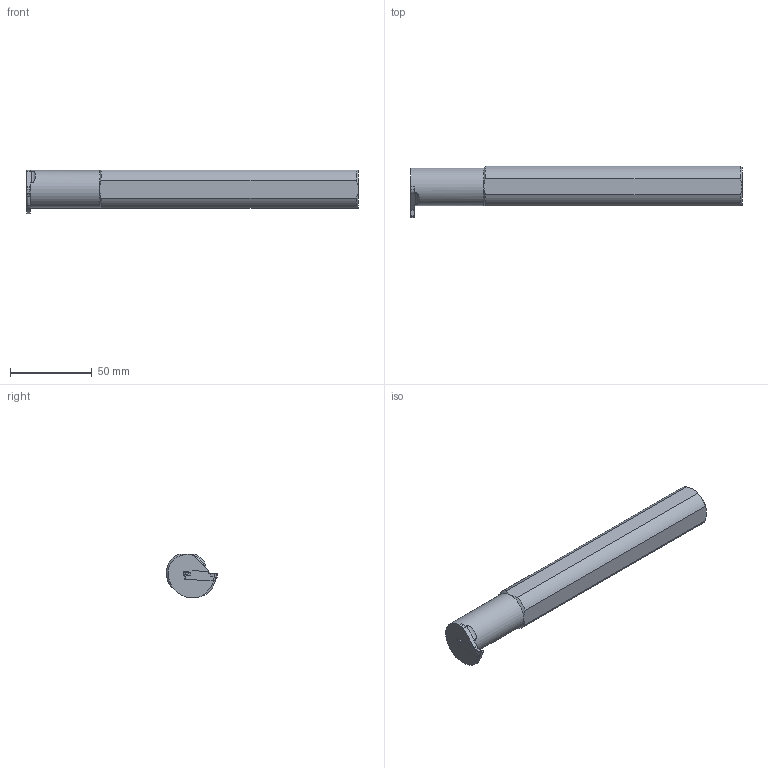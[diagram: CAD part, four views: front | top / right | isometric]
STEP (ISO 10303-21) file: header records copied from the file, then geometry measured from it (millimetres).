
FILE_DESCRIPTION(/* description */ (''),/* implementation_level */ '2;1');
FILE_NAME(/* name */ 'MGIVR20-16-3-HAAS_20200714.stp',/* time_stamp */ '2020-11-18T17:19:51+09:00',/* author */ (''),/* organization */ (''),/* preprocessor_version */ 'ST-DEVELOPER v11',/* originating_system */ 'SIEMENS UGS NX 6.0',/* authorisation */ '');
FILE_SCHEMA (('CONFIG_CONTROL_DESIGN'));
Length unit declared in the file: millimetre
Products named in the file (1): user6E78yslm
Bounding box: 203.2 x 31.6 x 26.76 mm (x, y, z)
Volume: 86979.9 mm3; surface area: 21611.3 mm2
Topology: 2 solids, 2 shells, 62 faces, 165 edges, 107 vertices
Faces by surface type: plane 33, cylinder 17, cone 6, extrusion 4, torus 2
Full cylindrical faces by diameter (mm): 1.6 x1, 8 x1, 23 x1
Entity records: 2051 total; most frequent: CARTESIAN_POINT 470, ORIENTED_EDGE 310, DIRECTION 302, EDGE_CURVE 155, AXIS2_PLACEMENT_3D 105, VERTEX_POINT 104, VECTOR 92, LINE 88
